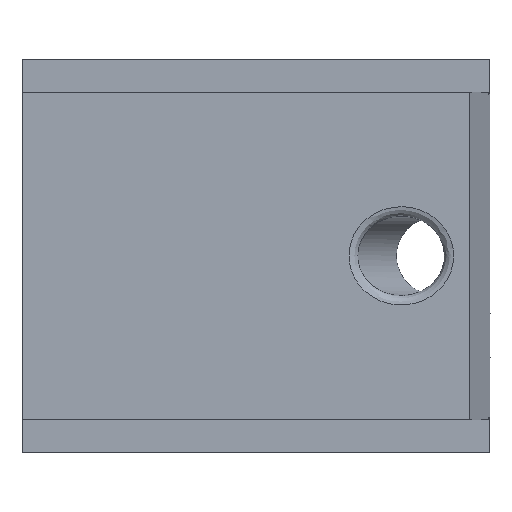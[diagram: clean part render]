
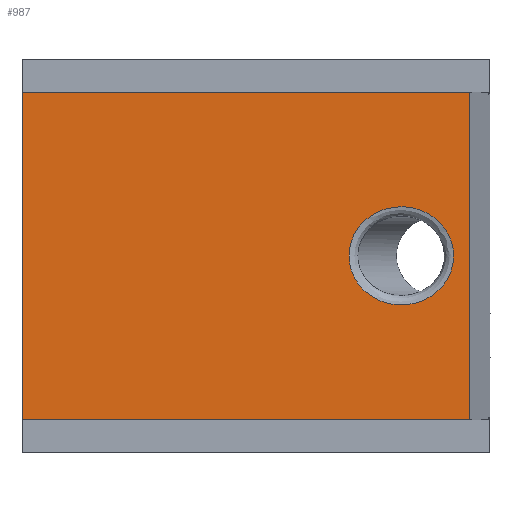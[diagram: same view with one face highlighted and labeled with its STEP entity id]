
A CAD part, top view. The second image highlights one B-rep face of the part: STEP entity #987.
In plain terms, the highlighted planar face has unit normal (0, 0, 1).
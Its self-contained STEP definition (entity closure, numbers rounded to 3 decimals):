
#75 = CARTESIAN_POINT ( 'NONE',  ( 34.937, 0., 12. ) ) ;
#135 = VERTEX_POINT ( 'NONE', #5401 ) ;
#141 = CARTESIAN_POINT ( 'NONE',  ( 46.111, 0., 12. ) ) ;
#366 = VERTEX_POINT ( 'NONE', #2884 ) ;
#482 = CARTESIAN_POINT ( 'NONE',  ( 0., 17.5, 12. ) ) ;
#873 = ORIENTED_EDGE ( 'NONE', *, *, #6942, .T. ) ;
#959 = LINE ( 'NONE', #10336, #5771 ) ;
#987 = ADVANCED_FACE ( 'NONE', ( #2027, #9862 ), #7254, .F. ) ;
#1229 = DIRECTION ( 'NONE',  ( 0., -1., 0. ) ) ;
#1240 = CARTESIAN_POINT ( 'NONE',  ( 0., 17.5, 12. ) ) ;
#1384 = ORIENTED_EDGE ( 'NONE', *, *, #4473, .T. ) ;
#1853 = DIRECTION ( 'NONE',  ( 0., -1., 0. ) ) ;
#2027 = FACE_BOUND ( 'NONE', #5183, .T. ) ;
#2355 = EDGE_CURVE ( 'NONE', #5971, #135, #4354, .T. ) ;
#2653 = CARTESIAN_POINT ( 'NONE',  ( 0., 17.5, 12. ) ) ;
#2884 = CARTESIAN_POINT ( 'NONE',  ( 47.816, 17.5, 12. ) ) ;
#3226 = VECTOR ( 'NONE', #1229, 1000. ) ;
#3518 = ORIENTED_EDGE ( 'NONE', *, *, #6183, .F. ) ;
#3834 = DIRECTION ( 'NONE',  ( 1., 0., 0. ) ) ;
#4275 = CARTESIAN_POINT ( 'NONE',  ( 34.937, -10.5, 12. ) ) ;
#4354 = LINE ( 'NONE', #2653, #5054 ) ;
#4418 = DIRECTION ( 'NONE',  ( 1., 0., 0. ) ) ;
#4473 = EDGE_CURVE ( 'NONE', #6907, #6907, #8358, .T. ) ;
#4746 = LINE ( 'NONE', #8152, #3226 ) ;
#4824 = CARTESIAN_POINT ( 'NONE',  ( 47.816, -17.5, 12. ) ) ;
#5054 = VECTOR ( 'NONE', #1853, 1000. ) ;
#5137 = CARTESIAN_POINT ( 'NONE',  ( 34.937, 10.5, 12. ) ) ;
#5183 = EDGE_LOOP ( 'NONE', ( #1384 ) ) ;
#5305 = CARTESIAN_POINT ( 'NONE',  ( 46.111, 0., 12. ) ) ;
#5401 = CARTESIAN_POINT ( 'NONE',  ( 0., -17.5, 12. ) ) ;
#5771 = VECTOR ( 'NONE', #4418, 1000. ) ;
#5971 = VERTEX_POINT ( 'NONE', #9465 ) ;
#6183 = EDGE_CURVE ( 'NONE', #5971, #366, #6562, .T. ) ;
#6185 = EDGE_CURVE ( 'NONE', #366, #7631, #4746, .T. ) ;
#6346 = DIRECTION ( 'NONE',  ( -1., 0., 0. ) ) ;
#6461 = DIRECTION ( 'NONE',  ( 0., 0., -1. ) ) ;
#6562 = LINE ( 'NONE', #482, #11035 ) ;
#6887 = ORIENTED_EDGE ( 'NONE', *, *, #2355, .T. ) ;
#6907 = VERTEX_POINT ( 'NONE', #141 ) ;
#6942 = EDGE_CURVE ( 'NONE', #135, #7631, #959, .T. ) ;
#7254 = PLANE ( 'NONE',  #10965 ) ;
#7631 = VERTEX_POINT ( 'NONE', #4824 ) ;
#7795 = CARTESIAN_POINT ( 'NONE',  ( 46.111, -10.5, 12. ) ) ;
#8152 = CARTESIAN_POINT ( 'NONE',  ( 47.816, 17.5, 12. ) ) ;
#8358 =( BOUNDED_CURVE ( )  B_SPLINE_CURVE ( 3, ( #9444, #7795, #4275, #75, #5137, #8816, #5305 ),
 .UNSPECIFIED., .T., .T. ) 
 B_SPLINE_CURVE_WITH_KNOTS ( ( 4, 3, 4 ),
 ( 0., 3.142, 6.283 ),
 .UNSPECIFIED. ) 
 CURVE ( )  GEOMETRIC_REPRESENTATION_ITEM ( )  RATIONAL_B_SPLINE_CURVE ( ( 1., 0.333, 0.333, 1., 0.333, 0.333, 1. ) ) 
 REPRESENTATION_ITEM ( '' )  );
#8555 = ORIENTED_EDGE ( 'NONE', *, *, #6185, .F. ) ;
#8816 = CARTESIAN_POINT ( 'NONE',  ( 46.111, 10.5, 12. ) ) ;
#9292 = EDGE_LOOP ( 'NONE', ( #873, #8555, #3518, #6887 ) ) ;
#9444 = CARTESIAN_POINT ( 'NONE',  ( 46.111, 0., 12. ) ) ;
#9465 = CARTESIAN_POINT ( 'NONE',  ( 0., 17.5, 12. ) ) ;
#9862 = FACE_OUTER_BOUND ( 'NONE', #9292, .T. ) ;
#10336 = CARTESIAN_POINT ( 'NONE',  ( 0., -17.5, 12. ) ) ;
#10965 = AXIS2_PLACEMENT_3D ( 'NONE', #1240, #6461, #6346 ) ;
#11035 = VECTOR ( 'NONE', #3834, 1000. ) ;
